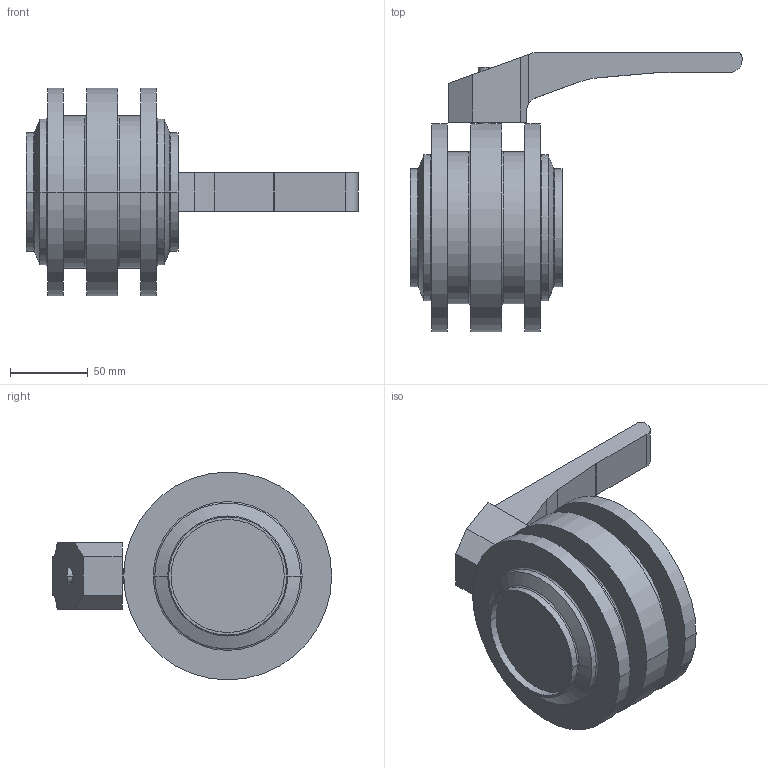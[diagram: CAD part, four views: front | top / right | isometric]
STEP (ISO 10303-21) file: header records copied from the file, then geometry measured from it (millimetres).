
FILE_DESCRIPTION(('OneSpaceDesigner STEP Export'),'2;1');
FILE_NAME('SVS1F-3zoll-H-12S.stp','2007-04-23T14:21:04',(''),(''),'OneSpace Designer STEP processor for AP214 (Solid Model)','OneSpace Modeling 15.00 06-Feb-2007 (C) CoCreate Software GmbH','');
FILE_SCHEMA(('AUTOMOTIVE_DESIGN { 1 0 10303 214 1 1 1 1 }'));
Length unit declared in the file: millimetre
Products named in the file (3): SVS1F-3zoll-H-12S; Handhebel-SV-40-100; SVS1F-3zoll-H-12S-vereint
Assembly tree (2 placements, depth 2):
  SVS1F-3zoll-H-12S-vereint
    Handhebel-SV-40-100
    SVS1F-3zoll-H-12S
Bounding box: 214 x 180 x 134 mm (x, y, z)
Volume: 1035686.6 mm3; surface area: 109155.5 mm2
Topology: 2 solids, 2 shells, 76 faces, 167 edges, 104 vertices
Faces by surface type: cylinder 31, plane 29, torus 12, cone 4
Entity records: 2308 total; most frequent: CARTESIAN_POINT 696, ORIENTED_EDGE 334, DIRECTION 303, EDGE_CURVE 167, AXIS2_PLACEMENT_3D 113, VERTEX_POINT 104, EDGE_LOOP 85, VECTOR 77
